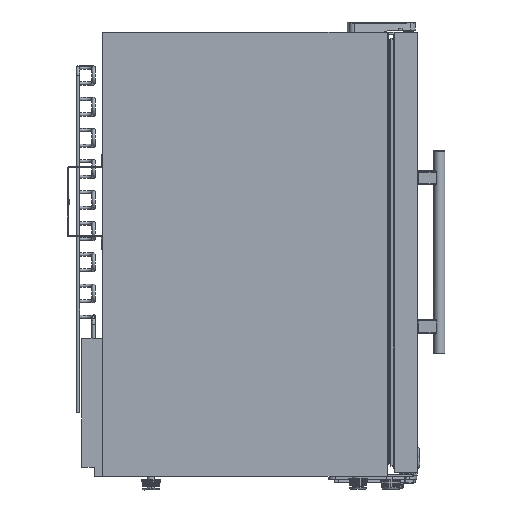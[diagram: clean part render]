
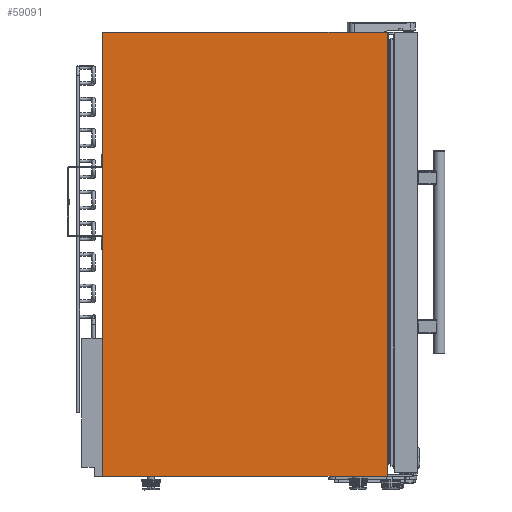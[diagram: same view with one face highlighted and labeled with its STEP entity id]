
A CAD part, left-side view. The second image highlights one B-rep face of the part: STEP entity #59091.
In plain terms, the highlighted planar face has unit normal (-1, 0, 0).
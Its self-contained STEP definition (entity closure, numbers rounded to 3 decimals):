
#2865=PLANE('',#63058);
#4971=LINE('',#87649,#9998);
#4987=LINE('',#87679,#10014);
#4990=LINE('',#87685,#10017);
#4992=LINE('',#87688,#10019);
#9998=VECTOR('',#69645,10.);
#10014=VECTOR('',#69673,10.);
#10017=VECTOR('',#69678,10.);
#10019=VECTOR('',#69682,10.);
#16171=FACE_OUTER_BOUND('',#19989,.T.);
#19989=EDGE_LOOP('',(#41137,#41138,#41139,#41140));
#26501=VERTEX_POINT('',#87646);
#26502=VERTEX_POINT('',#87648);
#26510=VERTEX_POINT('',#87677);
#26512=VERTEX_POINT('',#87683);
#32024=EDGE_CURVE('',#26501,#26502,#4971,.T.);
#32040=EDGE_CURVE('',#26510,#26501,#4987,.T.);
#32043=EDGE_CURVE('',#26512,#26510,#4990,.T.);
#32045=EDGE_CURVE('',#26502,#26512,#4992,.T.);
#41137=ORIENTED_EDGE('',*,*,#32040,.F.);
#41138=ORIENTED_EDGE('',*,*,#32043,.F.);
#41139=ORIENTED_EDGE('',*,*,#32045,.F.);
#41140=ORIENTED_EDGE('',*,*,#32024,.F.);
#59091=ADVANCED_FACE('',(#16171),#2865,.T.);
#63058=AXIS2_PLACEMENT_3D('',#87689,#69683,#69684);
#69645=DIRECTION('',(0.,0.,1.));
#69673=DIRECTION('',(0.,1.,0.));
#69678=DIRECTION('',(0.,0.,-1.));
#69682=DIRECTION('',(0.,-1.,0.));
#69683=DIRECTION('center_axis',(-1.,0.,0.));
#69684=DIRECTION('ref_axis',(0.,-1.,0.));
#87646=CARTESIAN_POINT('',(-215.,247.947,-346.221));
#87648=CARTESIAN_POINT('',(-215.,247.947,310.529));
#87649=CARTESIAN_POINT('',(-215.,247.947,-346.221));
#87677=CARTESIAN_POINT('',(-215.,-173.053,-346.221));
#87679=CARTESIAN_POINT('',(-215.,-173.053,-346.221));
#87683=CARTESIAN_POINT('',(-215.,-173.053,310.529));
#87685=CARTESIAN_POINT('',(-215.,-173.053,310.529));
#87688=CARTESIAN_POINT('',(-215.,247.947,310.529));
#87689=CARTESIAN_POINT('Origin',(-215.,37.447,-17.846));
